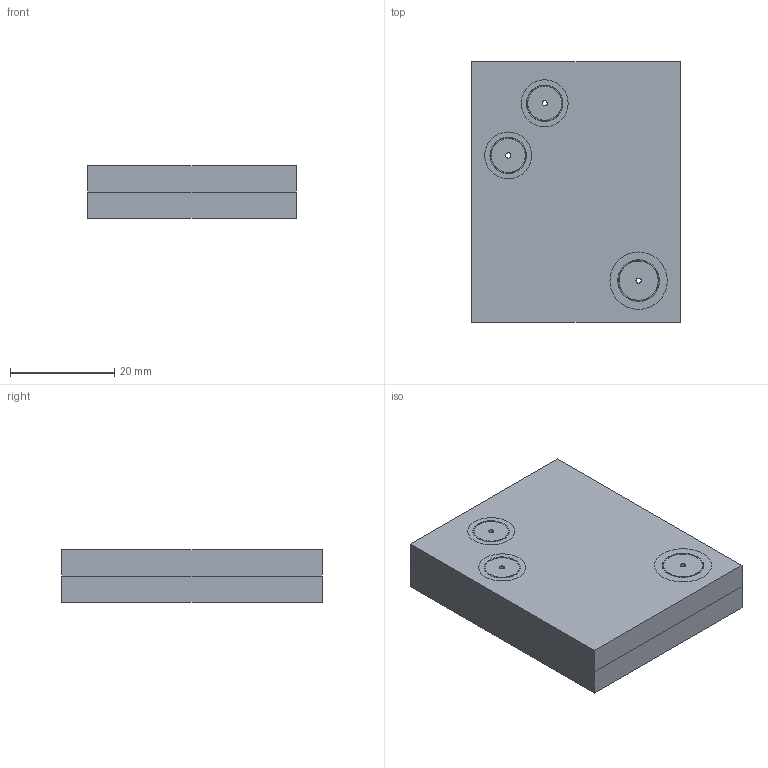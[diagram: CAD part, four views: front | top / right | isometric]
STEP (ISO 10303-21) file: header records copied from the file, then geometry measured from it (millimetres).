
FILE_DESCRIPTION (( 'STEP AP214' ), '1' );
FILE_NAME ('Arm.STEP', '2016-02-16T23:35:53', ( '' ), ( '' ), 'SwSTEP 2.0', 'SolidWorks 2016', '' );
FILE_SCHEMA (( 'AUTOMOTIVE_DESIGN' ));
Length unit declared in the file: millimetre
Products named in the file (1): Arm
Bounding box: 40 x 50 x 10 mm (x, y, z)
Volume: 19976.4 mm3; surface area: 15712.5 mm2
Topology: 26 solids, 26 shells, 168 faces, 348 edges, 232 vertices
Faces by surface type: cylinder 108, plane 60
Entity records: 4947 total; most frequent: DIRECTION 902, CARTESIAN_POINT 749, ORIENTED_EDGE 696, AXIS2_PLACEMENT_3D 385, EDGE_CURVE 348, VERTEX_POINT 232, EDGE_LOOP 228, CIRCLE 216
